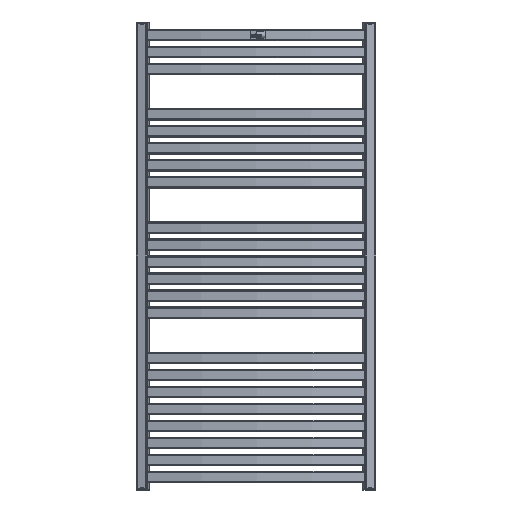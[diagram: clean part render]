
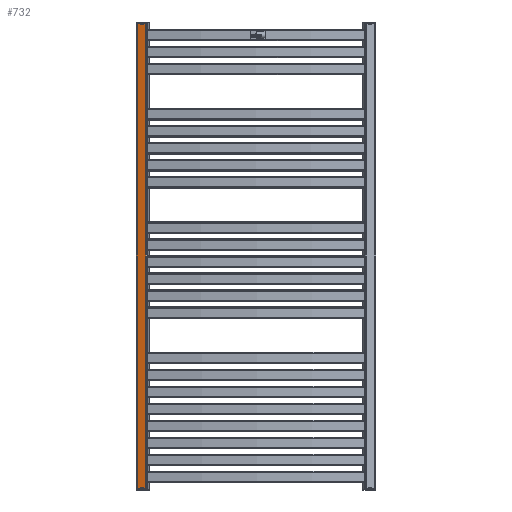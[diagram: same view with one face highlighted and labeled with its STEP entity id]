
A CAD part, front view. The second image highlights one B-rep face of the part: STEP entity #732.
In plain terms, the highlighted planar face has unit normal (-0.243, -0.97, 0) as drawn and (1, 0, 0) by its records, which use the part's own axes.
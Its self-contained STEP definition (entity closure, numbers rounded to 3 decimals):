
#732 = ADVANCED_FACE( '', ( #1547 ), #1548, .T. );
#1547 = FACE_OUTER_BOUND( '', #2409, .T. );
#1548 = PLANE( '', #2410 );
#2409 = EDGE_LOOP( '', ( #4719, #4720, #4721, #4722 ) );
#2410 = AXIS2_PLACEMENT_3D( '', #4723, #4724, #4725 );
#4719 = ORIENTED_EDGE( '', *, *, #5769, .T. );
#4720 = ORIENTED_EDGE( '', *, *, #5453, .T. );
#4721 = ORIENTED_EDGE( '', *, *, #5469, .F. );
#4722 = ORIENTED_EDGE( '', *, *, #5563, .T. );
#4723 = CARTESIAN_POINT( '', ( 15., 1236., -15. ) );
#4724 = DIRECTION( '', ( 1., 0., 0. ) );
#4725 = DIRECTION( '', ( 0., 0., -1. ) );
#5453 = EDGE_CURVE( '', #6773, #6775, #6777, .T. );
#5469 = EDGE_CURVE( '', #6797, #6775, #6798, .T. );
#5563 = EDGE_CURVE( '', #6797, #6911, #6914, .F. );
#5769 = EDGE_CURVE( '', #6911, #6773, #7157, .T. );
#6773 = VERTEX_POINT( '', #8455 );
#6775 = VERTEX_POINT( '', #8457 );
#6777 = LINE( '', #8459, #8460 );
#6797 = VERTEX_POINT( '', #8487 );
#6798 = LINE( '', #8488, #8489 );
#6911 = VERTEX_POINT( '', #8650 );
#6914 = LINE( '', #8653, #8654 );
#7157 = LINE( '', #8965, #8966 );
#8455 = CARTESIAN_POINT( '', ( 15., 1236., 12. ) );
#8457 = CARTESIAN_POINT( '', ( 15., 0., 12. ) );
#8459 = CARTESIAN_POINT( '', ( 15., 1236., 12. ) );
#8460 = VECTOR( '', #9908, 1000. );
#8487 = CARTESIAN_POINT( '', ( 15., 0., -12. ) );
#8488 = CARTESIAN_POINT( '', ( 15., 0., -15. ) );
#8489 = VECTOR( '', #9928, 1000. );
#8650 = CARTESIAN_POINT( '', ( 15., 1236., -12. ) );
#8653 = CARTESIAN_POINT( '', ( 15., 1236., -12. ) );
#8654 = VECTOR( '', #10010, 1000. );
#8965 = CARTESIAN_POINT( '', ( 15., 1236., -15. ) );
#8966 = VECTOR( '', #10220, 1000. );
#9908 = DIRECTION( '', ( 0., -1., 0. ) );
#9928 = DIRECTION( '', ( 0., 0., 1. ) );
#10010 = DIRECTION( '', ( 0., -1., 0. ) );
#10220 = DIRECTION( '', ( 0., 0., 1. ) );
